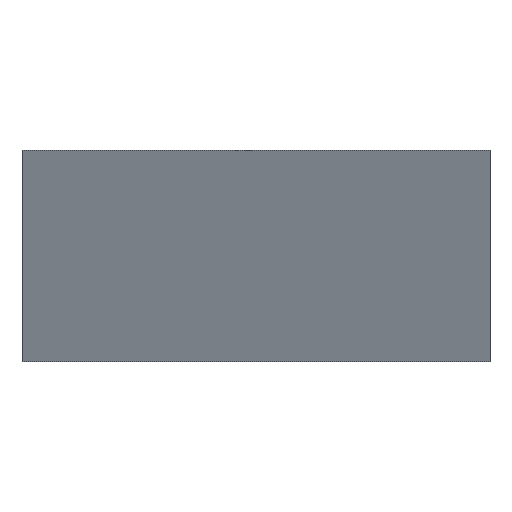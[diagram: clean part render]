
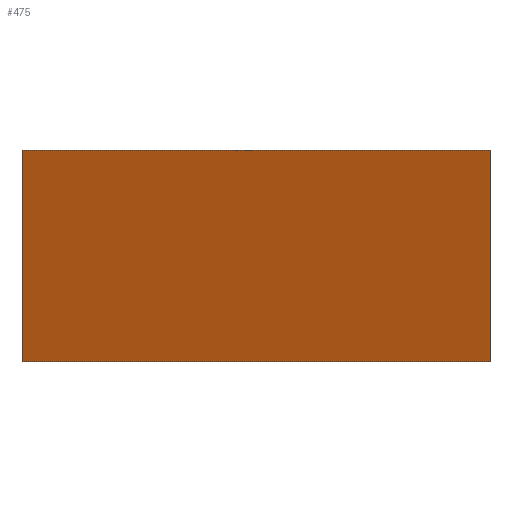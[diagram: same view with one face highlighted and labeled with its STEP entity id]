
A CAD part, front view. The second image highlights one B-rep face of the part: STEP entity #475.
In plain terms, the highlighted planar face has unit normal (0, -0.937, -0.349).
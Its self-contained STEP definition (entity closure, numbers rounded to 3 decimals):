
#21 = EDGE_CURVE('',#22,#24,#26,.T.);
#22 = VERTEX_POINT('',#23);
#23 = CARTESIAN_POINT('',(-29.,-13.056,-20.833));
#24 = VERTEX_POINT('',#25);
#25 = CARTESIAN_POINT('',(-29.,-20.82,0.));
#26 = SURFACE_CURVE('',#27,(#31,#43),.PCURVE_S1.);
#27 = LINE('',#28,#29);
#28 = CARTESIAN_POINT('',(-29.,1.54,-60.));
#29 = VECTOR('',#30,1.);
#30 = DIRECTION('',(0.,-0.349,0.937));
#31 = PCURVE('',#32,#37);
#32 = PLANE('',#33);
#33 = AXIS2_PLACEMENT_3D('',#34,#35,#36);
#34 = CARTESIAN_POINT('',(-29.,1.118,-16.5));
#35 = DIRECTION('',(1.,0.,0.));
#36 = DIRECTION('',(-0.,0.,1.));
#37 = DEFINITIONAL_REPRESENTATION('',(#38),#42);
#38 = LINE('',#39,#40);
#39 = CARTESIAN_POINT('',(-43.5,-0.423));
#40 = VECTOR('',#41,1.);
#41 = DIRECTION('',(0.937,0.349));
#42 = ( GEOMETRIC_REPRESENTATION_CONTEXT(2) 
PARAMETRIC_REPRESENTATION_CONTEXT() REPRESENTATION_CONTEXT('2D SPACE',''
  ) );
#43 = PCURVE('',#44,#49);
#44 = PLANE('',#45);
#45 = AXIS2_PLACEMENT_3D('',#46,#47,#48);
#46 = CARTESIAN_POINT('',(-29.,1.54,-60.));
#47 = DIRECTION('',(0.,-0.937,-0.349));
#48 = DIRECTION('',(0.,-0.349,0.937));
#49 = DEFINITIONAL_REPRESENTATION('',(#50),#54);
#50 = LINE('',#51,#52);
#51 = CARTESIAN_POINT('',(0.,0.));
#52 = VECTOR('',#53,1.);
#53 = DIRECTION('',(1.,0.));
#54 = ( GEOMETRIC_REPRESENTATION_CONTEXT(2) 
PARAMETRIC_REPRESENTATION_CONTEXT() REPRESENTATION_CONTEXT('2D SPACE',''
  ) );
#72 = PLANE('',#73);
#73 = AXIS2_PLACEMENT_3D('',#74,#75,#76);
#74 = CARTESIAN_POINT('',(-400.,-388.,-20.833));
#75 = DIRECTION('',(0.,0.,1.));
#76 = DIRECTION('',(1.,0.,0.));
#350 = PLANE('',#351);
#351 = AXIS2_PLACEMENT_3D('',#352,#353,#354);
#352 = CARTESIAN_POINT('',(-400.,-388.,0.));
#353 = DIRECTION('',(0.,0.,1.));
#354 = DIRECTION('',(1.,0.,0.));
#475 = ADVANCED_FACE('',(#476),#44,.T.);
#476 = FACE_BOUND('',#477,.T.);
#477 = EDGE_LOOP('',(#478,#479,#502,#530));
#478 = ORIENTED_EDGE('',*,*,#21,.F.);
#479 = ORIENTED_EDGE('',*,*,#480,.F.);
#480 = EDGE_CURVE('',#481,#22,#483,.T.);
#481 = VERTEX_POINT('',#482);
#482 = CARTESIAN_POINT('',(17.,-13.056,-20.833));
#483 = SURFACE_CURVE('',#484,(#488,#495),.PCURVE_S1.);
#484 = LINE('',#485,#486);
#485 = CARTESIAN_POINT('',(-214.5,-13.056,-20.833));
#486 = VECTOR('',#487,1.);
#487 = DIRECTION('',(-1.,-0.,0.));
#488 = PCURVE('',#44,#489);
#489 = DEFINITIONAL_REPRESENTATION('',(#490),#494);
#490 = LINE('',#491,#492);
#491 = CARTESIAN_POINT('',(41.798,185.5));
#492 = VECTOR('',#493,1.);
#493 = DIRECTION('',(0.,1.));
#494 = ( GEOMETRIC_REPRESENTATION_CONTEXT(2) 
PARAMETRIC_REPRESENTATION_CONTEXT() REPRESENTATION_CONTEXT('2D SPACE',''
  ) );
#495 = PCURVE('',#72,#496);
#496 = DEFINITIONAL_REPRESENTATION('',(#497),#501);
#497 = LINE('',#498,#499);
#498 = CARTESIAN_POINT('',(185.5,374.944));
#499 = VECTOR('',#500,1.);
#500 = DIRECTION('',(-1.,0.));
#501 = ( GEOMETRIC_REPRESENTATION_CONTEXT(2) 
PARAMETRIC_REPRESENTATION_CONTEXT() REPRESENTATION_CONTEXT('2D SPACE',''
  ) );
#502 = ORIENTED_EDGE('',*,*,#503,.T.);
#503 = EDGE_CURVE('',#481,#504,#506,.T.);
#504 = VERTEX_POINT('',#505);
#505 = CARTESIAN_POINT('',(17.,-20.82,0.));
#506 = SURFACE_CURVE('',#507,(#511,#518),.PCURVE_S1.);
#507 = LINE('',#508,#509);
#508 = CARTESIAN_POINT('',(17.,1.54,-60.));
#509 = VECTOR('',#510,1.);
#510 = DIRECTION('',(0.,-0.349,0.937));
#511 = PCURVE('',#44,#512);
#512 = DEFINITIONAL_REPRESENTATION('',(#513),#517);
#513 = LINE('',#514,#515);
#514 = CARTESIAN_POINT('',(0.,-46.));
#515 = VECTOR('',#516,1.);
#516 = DIRECTION('',(1.,0.));
#517 = ( GEOMETRIC_REPRESENTATION_CONTEXT(2) 
PARAMETRIC_REPRESENTATION_CONTEXT() REPRESENTATION_CONTEXT('2D SPACE',''
  ) );
#518 = PCURVE('',#519,#524);
#519 = PLANE('',#520);
#520 = AXIS2_PLACEMENT_3D('',#521,#522,#523);
#521 = CARTESIAN_POINT('',(17.,1.118,-16.5));
#522 = DIRECTION('',(1.,0.,0.));
#523 = DIRECTION('',(-0.,0.,1.));
#524 = DEFINITIONAL_REPRESENTATION('',(#525),#529);
#525 = LINE('',#526,#527);
#526 = CARTESIAN_POINT('',(-43.5,-0.423));
#527 = VECTOR('',#528,1.);
#528 = DIRECTION('',(0.937,0.349));
#529 = ( GEOMETRIC_REPRESENTATION_CONTEXT(2) 
PARAMETRIC_REPRESENTATION_CONTEXT() REPRESENTATION_CONTEXT('2D SPACE',''
  ) );
#530 = ORIENTED_EDGE('',*,*,#531,.T.);
#531 = EDGE_CURVE('',#504,#24,#532,.T.);
#532 = SURFACE_CURVE('',#533,(#537,#544),.PCURVE_S1.);
#533 = LINE('',#534,#535);
#534 = CARTESIAN_POINT('',(-214.5,-20.82,0.));
#535 = VECTOR('',#536,1.);
#536 = DIRECTION('',(-1.,-0.,0.));
#537 = PCURVE('',#44,#538);
#538 = DEFINITIONAL_REPRESENTATION('',(#539),#543);
#539 = LINE('',#540,#541);
#540 = CARTESIAN_POINT('',(64.031,185.5));
#541 = VECTOR('',#542,1.);
#542 = DIRECTION('',(0.,1.));
#543 = ( GEOMETRIC_REPRESENTATION_CONTEXT(2) 
PARAMETRIC_REPRESENTATION_CONTEXT() REPRESENTATION_CONTEXT('2D SPACE',''
  ) );
#544 = PCURVE('',#350,#545);
#545 = DEFINITIONAL_REPRESENTATION('',(#546),#550);
#546 = LINE('',#547,#548);
#547 = CARTESIAN_POINT('',(185.5,367.18));
#548 = VECTOR('',#549,1.);
#549 = DIRECTION('',(-1.,0.));
#550 = ( GEOMETRIC_REPRESENTATION_CONTEXT(2) 
PARAMETRIC_REPRESENTATION_CONTEXT() REPRESENTATION_CONTEXT('2D SPACE',''
  ) );
